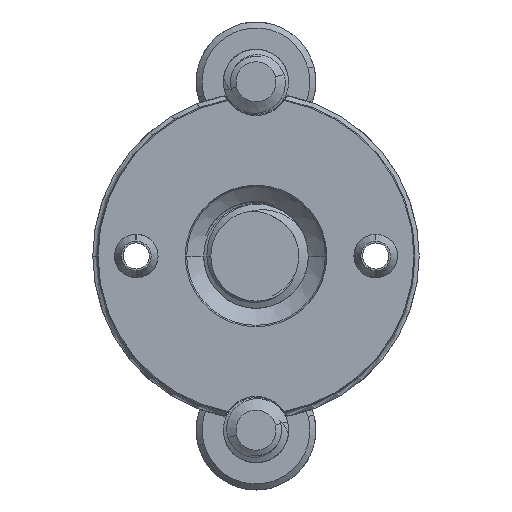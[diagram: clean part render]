
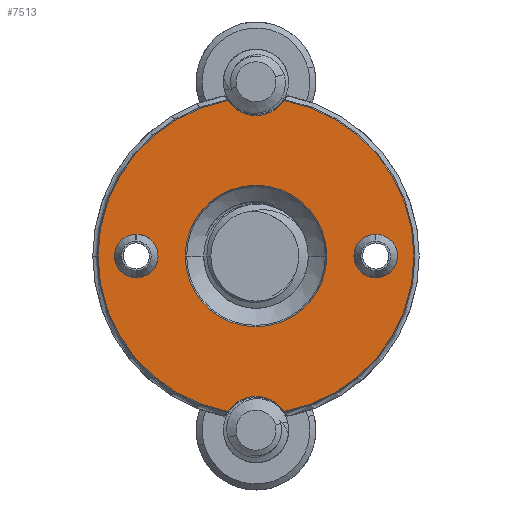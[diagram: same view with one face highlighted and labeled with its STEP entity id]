
A CAD part, front view. The second image highlights one B-rep face of the part: STEP entity #7513.
In plain terms, the highlighted planar face has unit normal (0, -1, 0).
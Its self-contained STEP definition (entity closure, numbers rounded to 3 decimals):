
#23 = AXIS2_PLACEMENT_3D ( 'NONE', #15446, #9005, #13097 ) ;
#375 = EDGE_LOOP ( 'NONE', ( #14116, #9066, #5982, #9280, #16032, #1814 ) ) ;
#676 = EDGE_CURVE ( 'NONE', #11340, #8862, #4146, .T. ) ;
#990 = DIRECTION ( 'NONE',  ( 0., 1., 0. ) ) ;
#1049 = CIRCLE ( 'NONE', #23, 1. ) ;
#1305 = CIRCLE ( 'NONE', #10432, 7.256 ) ;
#1319 = AXIS2_PLACEMENT_3D ( 'NONE', #14911, #6580, #2595 ) ;
#1405 = CIRCLE ( 'NONE', #3218, 3.25 ) ;
#1414 = DIRECTION ( 'NONE',  ( 0., -1., 0. ) ) ;
#1494 = DIRECTION ( 'NONE',  ( 0., -1., 0. ) ) ;
#1733 = ORIENTED_EDGE ( 'NONE', *, *, #1961, .T. ) ;
#1814 = ORIENTED_EDGE ( 'NONE', *, *, #10971, .F. ) ;
#1961 = EDGE_CURVE ( 'NONE', #12609, #11723, #6809, .T. ) ;
#1965 = DIRECTION ( 'NONE',  ( -1., 0., 0. ) ) ;
#2012 = CARTESIAN_POINT ( 'NONE',  ( -6.5, -8.8, 0. ) ) ;
#2298 = FACE_OUTER_BOUND ( 'NONE', #375, .T. ) ;
#2327 = CIRCLE ( 'NONE', #11475, 1. ) ;
#2343 = CARTESIAN_POINT ( 'NONE',  ( -4.5, -8.8, 0. ) ) ;
#2354 = AXIS2_PLACEMENT_3D ( 'NONE', #5622, #14037, #7829 ) ;
#2392 = DIRECTION ( 'NONE',  ( 0., 1., 0. ) ) ;
#2425 = DIRECTION ( 'NONE',  ( 0., -1., 0. ) ) ;
#2477 = CARTESIAN_POINT ( 'NONE',  ( 0., -8.8, 0. ) ) ;
#2502 = DIRECTION ( 'NONE',  ( -1., 0., 0. ) ) ;
#2595 = DIRECTION ( 'NONE',  ( -1., 0., 0. ) ) ;
#3218 = AXIS2_PLACEMENT_3D ( 'NONE', #12501, #990, #3519 ) ;
#3519 = DIRECTION ( 'NONE',  ( -1., 0., 0. ) ) ;
#3522 = EDGE_CURVE ( 'NONE', #11723, #12609, #1405, .T. ) ;
#3677 = EDGE_LOOP ( 'NONE', ( #1733, #5151 ) ) ;
#3860 = CARTESIAN_POINT ( 'NONE',  ( -1.29, -8.8, -7.141 ) ) ;
#3949 = CARTESIAN_POINT ( 'NONE',  ( -3.25, -8.8, 0. ) ) ;
#3974 = VERTEX_POINT ( 'NONE', #5269 ) ;
#4033 = DIRECTION ( 'NONE',  ( -1., 0., 0. ) ) ;
#4038 = EDGE_LOOP ( 'NONE', ( #6360, #15831 ) ) ;
#4146 = CIRCLE ( 'NONE', #12751, 7.256 ) ;
#4740 = AXIS2_PLACEMENT_3D ( 'NONE', #6134, #2392, #13343 ) ;
#5151 = ORIENTED_EDGE ( 'NONE', *, *, #3522, .T. ) ;
#5269 = CARTESIAN_POINT ( 'NONE',  ( 1.29, -8.8, 7.141 ) ) ;
#5502 = CIRCLE ( 'NONE', #14626, 1. ) ;
#5622 = CARTESIAN_POINT ( 'NONE',  ( 5.5, -8.8, 0. ) ) ;
#5853 = VERTEX_POINT ( 'NONE', #12740 ) ;
#5939 = DIRECTION ( 'NONE',  ( 0., -1., 0. ) ) ;
#5943 = CARTESIAN_POINT ( 'NONE',  ( 3.25, -8.8, 0. ) ) ;
#5982 = ORIENTED_EDGE ( 'NONE', *, *, #11448, .T. ) ;
#6005 = CIRCLE ( 'NONE', #1319, 1.55 ) ;
#6123 = VERTEX_POINT ( 'NONE', #10035 ) ;
#6134 = CARTESIAN_POINT ( 'NONE',  ( -7.5, -8.8, -7.352 ) ) ;
#6139 = DIRECTION ( 'NONE',  ( -1., 0., 0. ) ) ;
#6360 = ORIENTED_EDGE ( 'NONE', *, *, #10533, .F. ) ;
#6580 = DIRECTION ( 'NONE',  ( 0., -1., 0. ) ) ;
#6809 = CIRCLE ( 'NONE', #15669, 3.25 ) ;
#7008 = ORIENTED_EDGE ( 'NONE', *, *, #12564, .F. ) ;
#7140 = VERTEX_POINT ( 'NONE', #15641 ) ;
#7405 = CARTESIAN_POINT ( 'NONE',  ( 0., -8.8, -8. ) ) ;
#7436 = DIRECTION ( 'NONE',  ( -1., 0., 0. ) ) ;
#7477 = DIRECTION ( 'NONE',  ( -1., 0., 0. ) ) ;
#7513 = ADVANCED_FACE ( 'NONE', ( #13492, #2298, #11217, #9735 ), #13580, .F. ) ;
#7829 = DIRECTION ( 'NONE',  ( -1., 0., 0. ) ) ;
#7866 = DIRECTION ( 'NONE',  ( 0., -1., 0. ) ) ;
#8318 = CARTESIAN_POINT ( 'NONE',  ( 0., -8.8, 0. ) ) ;
#8531 = ORIENTED_EDGE ( 'NONE', *, *, #9029, .F. ) ;
#8647 = AXIS2_PLACEMENT_3D ( 'NONE', #7405, #5939, #7477 ) ;
#8821 = AXIS2_PLACEMENT_3D ( 'NONE', #9689, #2425, #2502 ) ;
#8862 = VERTEX_POINT ( 'NONE', #3860 ) ;
#9005 = DIRECTION ( 'NONE',  ( 0., -1., 0. ) ) ;
#9008 = EDGE_CURVE ( 'NONE', #7140, #3974, #14598, .T. ) ;
#9029 = EDGE_CURVE ( 'NONE', #15088, #11335, #1049, .T. ) ;
#9066 = ORIENTED_EDGE ( 'NONE', *, *, #9008, .F. ) ;
#9280 = ORIENTED_EDGE ( 'NONE', *, *, #676, .T. ) ;
#9313 = EDGE_CURVE ( 'NONE', #10636, #3974, #1305, .T. ) ;
#9659 = CIRCLE ( 'NONE', #2354, 1. ) ;
#9689 = CARTESIAN_POINT ( 'NONE',  ( 0., -8.8, 0. ) ) ;
#9735 = FACE_BOUND ( 'NONE', #11801, .T. ) ;
#9737 = EDGE_CURVE ( 'NONE', #6123, #8862, #6005, .T. ) ;
#10035 = CARTESIAN_POINT ( 'NONE',  ( 0., -8.8, -6.45 ) ) ;
#10075 = DIRECTION ( 'NONE',  ( -1., 0., 0. ) ) ;
#10282 = DIRECTION ( 'NONE',  ( 0., -1., 0. ) ) ;
#10360 = CARTESIAN_POINT ( 'NONE',  ( 0., -8.8, 0. ) ) ;
#10432 = AXIS2_PLACEMENT_3D ( 'NONE', #2477, #14780, #7436 ) ;
#10533 = EDGE_CURVE ( 'NONE', #14564, #5853, #5502, .T. ) ;
#10636 = VERTEX_POINT ( 'NONE', #11688 ) ;
#10669 = CARTESIAN_POINT ( 'NONE',  ( -7.256, -8.8, 0. ) ) ;
#10742 = CIRCLE ( 'NONE', #8647, 1.55 ) ;
#10971 = EDGE_CURVE ( 'NONE', #10636, #6123, #10742, .T. ) ;
#11217 = FACE_BOUND ( 'NONE', #4038, .T. ) ;
#11335 = VERTEX_POINT ( 'NONE', #2012 ) ;
#11340 = VERTEX_POINT ( 'NONE', #10669 ) ;
#11448 = EDGE_CURVE ( 'NONE', #7140, #11340, #12500, .T. ) ;
#11475 = AXIS2_PLACEMENT_3D ( 'NONE', #15117, #1494, #10075 ) ;
#11688 = CARTESIAN_POINT ( 'NONE',  ( 1.29, -8.8, -7.141 ) ) ;
#11723 = VERTEX_POINT ( 'NONE', #5943 ) ;
#11801 = EDGE_LOOP ( 'NONE', ( #8531, #7008 ) ) ;
#12182 = DIRECTION ( 'NONE',  ( 0., 1., 0. ) ) ;
#12500 = CIRCLE ( 'NONE', #8821, 7.256 ) ;
#12501 = CARTESIAN_POINT ( 'NONE',  ( 0., -8.8, 0. ) ) ;
#12564 = EDGE_CURVE ( 'NONE', #11335, #15088, #2327, .T. ) ;
#12601 = CARTESIAN_POINT ( 'NONE',  ( 5.5, -8.8, 0. ) ) ;
#12609 = VERTEX_POINT ( 'NONE', #3949 ) ;
#12740 = CARTESIAN_POINT ( 'NONE',  ( 4.5, -8.8, 0. ) ) ;
#12751 = AXIS2_PLACEMENT_3D ( 'NONE', #10360, #10282, #15076 ) ;
#13097 = DIRECTION ( 'NONE',  ( -1., 0., 0. ) ) ;
#13343 = DIRECTION ( 'NONE',  ( -1., 0., 0. ) ) ;
#13492 = FACE_BOUND ( 'NONE', #3677, .T. ) ;
#13580 = PLANE ( 'NONE',  #4740 ) ;
#13757 = CARTESIAN_POINT ( 'NONE',  ( 6.5, -8.8, 0. ) ) ;
#13815 = AXIS2_PLACEMENT_3D ( 'NONE', #15520, #7866, #4033 ) ;
#13957 = EDGE_CURVE ( 'NONE', #5853, #14564, #9659, .T. ) ;
#14037 = DIRECTION ( 'NONE',  ( 0., -1., 0. ) ) ;
#14116 = ORIENTED_EDGE ( 'NONE', *, *, #9313, .T. ) ;
#14564 = VERTEX_POINT ( 'NONE', #13757 ) ;
#14598 = CIRCLE ( 'NONE', #13815, 1.55 ) ;
#14626 = AXIS2_PLACEMENT_3D ( 'NONE', #12601, #1414, #6139 ) ;
#14780 = DIRECTION ( 'NONE',  ( 0., -1., 0. ) ) ;
#14911 = CARTESIAN_POINT ( 'NONE',  ( 0., -8.8, -8. ) ) ;
#15076 = DIRECTION ( 'NONE',  ( -1., 0., 0. ) ) ;
#15088 = VERTEX_POINT ( 'NONE', #2343 ) ;
#15117 = CARTESIAN_POINT ( 'NONE',  ( -5.5, -8.8, 0. ) ) ;
#15446 = CARTESIAN_POINT ( 'NONE',  ( -5.5, -8.8, 0. ) ) ;
#15520 = CARTESIAN_POINT ( 'NONE',  ( 0., -8.8, 8. ) ) ;
#15641 = CARTESIAN_POINT ( 'NONE',  ( -1.29, -8.8, 7.141 ) ) ;
#15669 = AXIS2_PLACEMENT_3D ( 'NONE', #8318, #12182, #1965 ) ;
#15831 = ORIENTED_EDGE ( 'NONE', *, *, #13957, .F. ) ;
#16032 = ORIENTED_EDGE ( 'NONE', *, *, #9737, .F. ) ;
